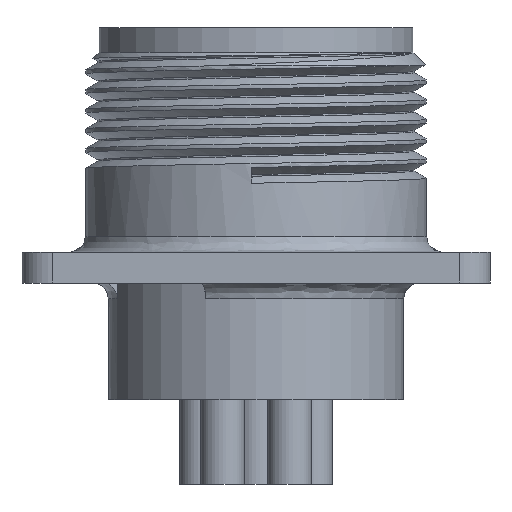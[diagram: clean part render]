
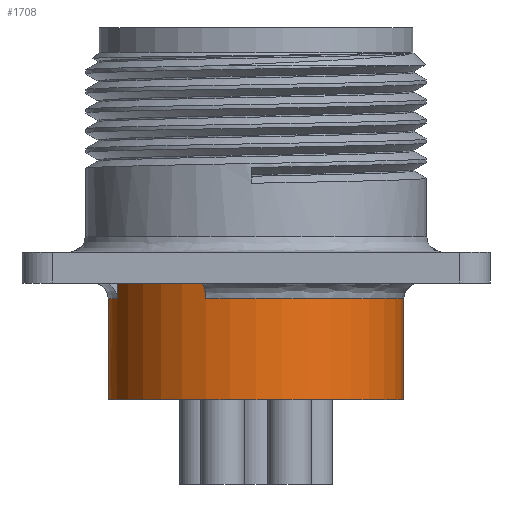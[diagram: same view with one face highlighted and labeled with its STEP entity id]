
A CAD part, front view. The second image highlights one B-rep face of the part: STEP entity #1708.
In plain terms, the highlighted cylindrical face has radius 9.525 mm (diameter 19.05 mm), a partial arc.
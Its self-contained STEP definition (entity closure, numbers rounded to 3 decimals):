
#2 = EDGE_CURVE ( 'NONE', #28671, #22818, #3756, .T. ) ;
#201 = VECTOR ( 'NONE', #21750, 1000. ) ;
#311 = CARTESIAN_POINT ( 'NONE',  ( -8.951, -3.258, -24. ) ) ;
#828 = VERTEX_POINT ( 'NONE', #9369 ) ;
#863 = EDGE_CURVE ( 'NONE', #16963, #828, #16163, .T. ) ;
#1577 = EDGE_CURVE ( 'NONE', #21080, #2319, #23409, .T. ) ;
#1708 = ADVANCED_FACE ( 'NONE', ( #4465 ), #21725, .T. ) ;
#1942 = EDGE_CURVE ( 'NONE', #10574, #21080, #7619, .T. ) ;
#2319 = VERTEX_POINT ( 'NONE', #6732 ) ;
#3756 = CIRCLE ( 'NONE', #3824, 9.525 ) ;
#3824 = AXIS2_PLACEMENT_3D ( 'NONE', #3978, #4384, #4040 ) ;
#3978 = CARTESIAN_POINT ( 'NONE',  ( 0., 0., -17.48 ) ) ;
#4040 = DIRECTION ( 'NONE',  ( -1., 0., 0. ) ) ;
#4384 = DIRECTION ( 'NONE',  ( 0., 0., -1. ) ) ;
#4389 = VERTEX_POINT ( 'NONE', #10875 ) ;
#4413 = DIRECTION ( 'NONE',  ( 0., 0., 1. ) ) ;
#4465 = FACE_OUTER_BOUND ( 'NONE', #25398, .T. ) ;
#5000 = ORIENTED_EDGE ( 'NONE', *, *, #863, .F. ) ;
#5506 = CARTESIAN_POINT ( 'NONE',  ( 0., 0., -17.48 ) ) ;
#5572 = LINE ( 'NONE', #311, #28688 ) ;
#5968 = CARTESIAN_POINT ( 'NONE',  ( 9.525, 0., -24. ) ) ;
#5977 = DIRECTION ( 'NONE',  ( 1., 0., 0. ) ) ;
#6083 = DIRECTION ( 'NONE',  ( 0., 0., 1. ) ) ;
#6182 = CARTESIAN_POINT ( 'NONE',  ( 0., 0., -15.98 ) ) ;
#6732 = CARTESIAN_POINT ( 'NONE',  ( 9.525, 0., -17.48 ) ) ;
#7537 = CARTESIAN_POINT ( 'NONE',  ( -9.525, 0., -17.48 ) ) ;
#7619 = CIRCLE ( 'NONE', #11672, 9.525 ) ;
#7787 = DIRECTION ( 'NONE',  ( -1., 0., 0. ) ) ;
#8056 = CIRCLE ( 'NONE', #17839, 9.525 ) ;
#8601 = EDGE_CURVE ( 'NONE', #10574, #22818, #15900, .T. ) ;
#9369 = CARTESIAN_POINT ( 'NONE',  ( -3.258, -8.951, -15.98 ) ) ;
#9733 = DIRECTION ( 'NONE',  ( 0., 0., 1. ) ) ;
#9862 = EDGE_CURVE ( 'NONE', #16963, #28671, #5572, .T. ) ;
#10574 = VERTEX_POINT ( 'NONE', #21443 ) ;
#10611 = ORIENTED_EDGE ( 'NONE', *, *, #14261, .T. ) ;
#10875 = CARTESIAN_POINT ( 'NONE',  ( -3.258, -8.951, -17.48 ) ) ;
#11254 = CARTESIAN_POINT ( 'NONE',  ( -9.525, 0., -24. ) ) ;
#11672 = AXIS2_PLACEMENT_3D ( 'NONE', #23190, #9733, #25374 ) ;
#11748 = ORIENTED_EDGE ( 'NONE', *, *, #2, .T. ) ;
#11849 = AXIS2_PLACEMENT_3D ( 'NONE', #6182, #6083, #5977 ) ;
#12673 = ORIENTED_EDGE ( 'NONE', *, *, #9862, .T. ) ;
#13367 = DIRECTION ( 'NONE',  ( 0., 0., 1. ) ) ;
#14261 = EDGE_CURVE ( 'NONE', #4389, #828, #19590, .T. ) ;
#15900 = LINE ( 'NONE', #11254, #27619 ) ;
#16143 = DIRECTION ( 'NONE',  ( 0., 0., -1. ) ) ;
#16163 = CIRCLE ( 'NONE', #11849, 9.525 ) ;
#16963 = VERTEX_POINT ( 'NONE', #26453 ) ;
#17839 = AXIS2_PLACEMENT_3D ( 'NONE', #5506, #21288, #7787 ) ;
#19590 = LINE ( 'NONE', #25613, #24787 ) ;
#21080 = VERTEX_POINT ( 'NONE', #26591 ) ;
#21288 = DIRECTION ( 'NONE',  ( 0., 0., -1. ) ) ;
#21443 = CARTESIAN_POINT ( 'NONE',  ( -9.525, 0., -24. ) ) ;
#21725 = CYLINDRICAL_SURFACE ( 'NONE', #24178, 9.525 ) ;
#21750 = DIRECTION ( 'NONE',  ( 0., 0., 1. ) ) ;
#22818 = VERTEX_POINT ( 'NONE', #7537 ) ;
#23144 = ORIENTED_EDGE ( 'NONE', *, *, #24246, .T. ) ;
#23190 = CARTESIAN_POINT ( 'NONE',  ( 0., 0., -24. ) ) ;
#23409 = LINE ( 'NONE', #5968, #201 ) ;
#23529 = DIRECTION ( 'NONE',  ( 0., 0., 1. ) ) ;
#24178 = AXIS2_PLACEMENT_3D ( 'NONE', #28860, #13367, #28774 ) ;
#24246 = EDGE_CURVE ( 'NONE', #2319, #4389, #8056, .T. ) ;
#24787 = VECTOR ( 'NONE', #23529, 1000. ) ;
#25374 = DIRECTION ( 'NONE',  ( 1., 0., 0. ) ) ;
#25398 = EDGE_LOOP ( 'NONE', ( #29065, #27554, #26465, #23144, #10611, #5000, #12673, #11748 ) ) ;
#25613 = CARTESIAN_POINT ( 'NONE',  ( -3.258, -8.951, -24. ) ) ;
#26453 = CARTESIAN_POINT ( 'NONE',  ( -8.951, -3.258, -15.98 ) ) ;
#26465 = ORIENTED_EDGE ( 'NONE', *, *, #1577, .T. ) ;
#26591 = CARTESIAN_POINT ( 'NONE',  ( 9.525, 0., -24. ) ) ;
#27554 = ORIENTED_EDGE ( 'NONE', *, *, #1942, .T. ) ;
#27619 = VECTOR ( 'NONE', #4413, 1000. ) ;
#28525 = CARTESIAN_POINT ( 'NONE',  ( -8.951, -3.258, -17.48 ) ) ;
#28671 = VERTEX_POINT ( 'NONE', #28525 ) ;
#28688 = VECTOR ( 'NONE', #16143, 1000. ) ;
#28774 = DIRECTION ( 'NONE',  ( 1., 0., 0. ) ) ;
#28860 = CARTESIAN_POINT ( 'NONE',  ( 0., 0., -24. ) ) ;
#29065 = ORIENTED_EDGE ( 'NONE', *, *, #8601, .F. ) ;
